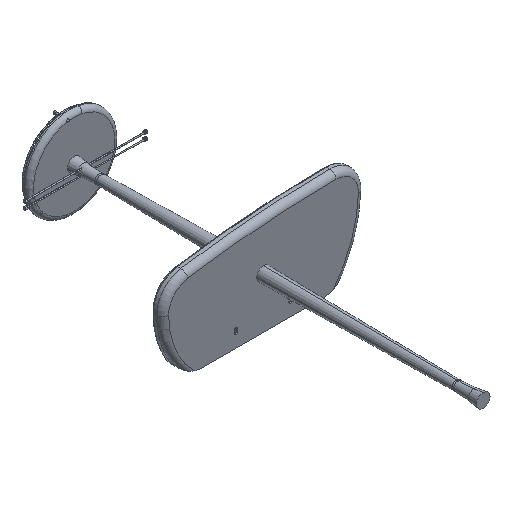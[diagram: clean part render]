
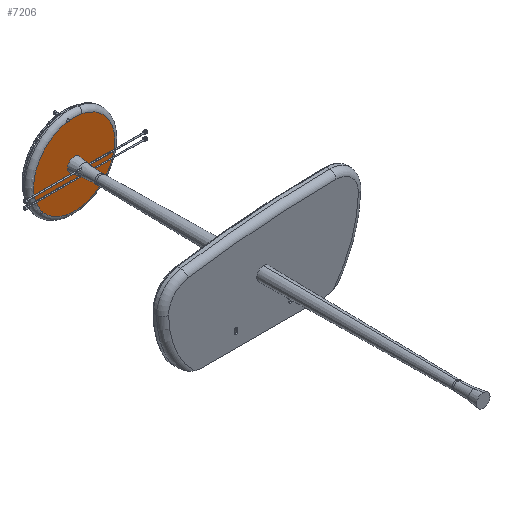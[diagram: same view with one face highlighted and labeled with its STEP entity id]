
A CAD part, isometric view. The second image highlights one B-rep face of the part: STEP entity #7206.
In plain terms, the highlighted planar face has unit normal (0, -1, 0).
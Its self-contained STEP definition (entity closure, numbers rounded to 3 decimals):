
#7 = CARTESIAN_POINT ( 'NONE',  ( -40.951, 0., 128.639 ) ) ;
#183 = ORIENTED_EDGE ( 'NONE', *, *, #2820, .T. ) ;
#193 = CARTESIAN_POINT ( 'NONE',  ( -90.26, 0., -99.727 ) ) ;
#235 = DIRECTION ( 'NONE',  ( 0., -1., 0. ) ) ;
#236 = CIRCLE ( 'NONE', #2703, 3.5 ) ;
#272 = VERTEX_POINT ( 'NONE', #193 ) ;
#528 = EDGE_CURVE ( 'NONE', #272, #6758, #1897, .T. ) ;
#607 = CARTESIAN_POINT ( 'NONE',  ( 0., 0., 0. ) ) ;
#660 = VERTEX_POINT ( 'NONE', #1255 ) ;
#672 = FACE_OUTER_BOUND ( 'NONE', #6665, .T. ) ;
#737 = DIRECTION ( 'NONE',  ( 0., 1., 0. ) ) ;
#796 = CIRCLE ( 'NONE', #8505, 135. ) ;
#842 = CIRCLE ( 'NONE', #2476, 5. ) ;
#844 = DIRECTION ( 'NONE',  ( 0., 0., 1. ) ) ;
#902 = AXIS2_PLACEMENT_3D ( 'NONE', #1121, #1190, #7937 ) ;
#1033 = CARTESIAN_POINT ( 'NONE',  ( 0., 0., 0. ) ) ;
#1058 = DIRECTION ( 'NONE',  ( 0., 1., 0. ) ) ;
#1110 = EDGE_CURVE ( 'NONE', #7724, #7570, #7263, .T. ) ;
#1121 = CARTESIAN_POINT ( 'NONE',  ( -90.26, 0., -103.727 ) ) ;
#1144 = AXIS2_PLACEMENT_3D ( 'NONE', #2956, #235, #8596 ) ;
#1174 = EDGE_CURVE ( 'NONE', #7811, #1288, #796, .T. ) ;
#1190 = DIRECTION ( 'NONE',  ( 0., -1., 0. ) ) ;
#1255 = CARTESIAN_POINT ( 'NONE',  ( 132.95, 0., -23.439 ) ) ;
#1277 = VERTEX_POINT ( 'NONE', #6953 ) ;
#1288 = VERTEX_POINT ( 'NONE', #7742 ) ;
#1411 = CARTESIAN_POINT ( 'NONE',  ( -90.93, 0., -99.784 ) ) ;
#1468 = VERTEX_POINT ( 'NONE', #5908 ) ;
#1542 = EDGE_CURVE ( 'NONE', #3006, #7724, #6504, .T. ) ;
#1732 = CARTESIAN_POINT ( 'NONE',  ( 0., 0., 0. ) ) ;
#1861 = AXIS2_PLACEMENT_3D ( 'NONE', #2587, #2705, #6724 ) ;
#1863 = ORIENTED_EDGE ( 'NONE', *, *, #528, .F. ) ;
#1897 = CIRCLE ( 'NONE', #1861, 4. ) ;
#2060 = DIRECTION ( 'NONE',  ( 0., 0., -1. ) ) ;
#2122 = ORIENTED_EDGE ( 'NONE', *, *, #3135, .T. ) ;
#2130 = EDGE_CURVE ( 'NONE', #7811, #272, #8230, .T. ) ;
#2381 = CIRCLE ( 'NONE', #3153, 135. ) ;
#2401 = CARTESIAN_POINT ( 'NONE',  ( 132.021, 0., -28.204 ) ) ;
#2407 = AXIS2_PLACEMENT_3D ( 'NONE', #7098, #737, #2974 ) ;
#2476 = AXIS2_PLACEMENT_3D ( 'NONE', #1033, #3192, #5246 ) ;
#2542 = EDGE_LOOP ( 'NONE', ( #2122, #8279 ) ) ;
#2587 = CARTESIAN_POINT ( 'NONE',  ( -90.26, 0., -103.727 ) ) ;
#2703 = AXIS2_PLACEMENT_3D ( 'NONE', #7490, #6220, #4882 ) ;
#2705 = DIRECTION ( 'NONE',  ( 0., -1., 0. ) ) ;
#2756 = DIRECTION ( 'NONE',  ( 0., -1., 0. ) ) ;
#2820 = EDGE_CURVE ( 'NONE', #5454, #7570, #8440, .T. ) ;
#2906 = CARTESIAN_POINT ( 'NONE',  ( 0., 0., 0. ) ) ;
#2956 = CARTESIAN_POINT ( 'NONE',  ( 0., 0., 0. ) ) ;
#2974 = DIRECTION ( 'NONE',  ( 0., 0., 1. ) ) ;
#3006 = VERTEX_POINT ( 'NONE', #8157 ) ;
#3135 = EDGE_CURVE ( 'NONE', #1277, #1468, #3350, .T. ) ;
#3150 = DIRECTION ( 'NONE',  ( 0., 0., 1. ) ) ;
#3153 = AXIS2_PLACEMENT_3D ( 'NONE', #7521, #6070, #3415 ) ;
#3192 = DIRECTION ( 'NONE',  ( 0., 1., 0. ) ) ;
#3350 = CIRCLE ( 'NONE', #2407, 5. ) ;
#3373 = CARTESIAN_POINT ( 'NONE',  ( -44.701, 0., 130.031 ) ) ;
#3415 = DIRECTION ( 'NONE',  ( 0., 0., 1. ) ) ;
#3566 = EDGE_CURVE ( 'NONE', #660, #5454, #2381, .T. ) ;
#3576 = CARTESIAN_POINT ( 'NONE',  ( 0., 0., 135. ) ) ;
#3614 = ORIENTED_EDGE ( 'NONE', *, *, #5862, .T. ) ;
#3701 = AXIS2_PLACEMENT_3D ( 'NONE', #7544, #2756, #2060 ) ;
#3871 = ORIENTED_EDGE ( 'NONE', *, *, #1542, .F. ) ;
#4175 = DIRECTION ( 'NONE',  ( 0., -1., 0. ) ) ;
#4483 = EDGE_CURVE ( 'NONE', #1468, #1277, #842, .T. ) ;
#4882 = DIRECTION ( 'NONE',  ( 0., 0., -1. ) ) ;
#4995 = DIRECTION ( 'NONE',  ( 0., -1., 0. ) ) ;
#5083 = AXIS2_PLACEMENT_3D ( 'NONE', #3373, #6687, #8107 ) ;
#5246 = DIRECTION ( 'NONE',  ( 0., 0., 1. ) ) ;
#5322 = CIRCLE ( 'NONE', #6721, 135. ) ;
#5454 = VERTEX_POINT ( 'NONE', #3576 ) ;
#5472 = CARTESIAN_POINT ( 'NONE',  ( 0., 0., 0. ) ) ;
#5862 = EDGE_CURVE ( 'NONE', #3006, #6758, #8014, .T. ) ;
#5908 = CARTESIAN_POINT ( 'NONE',  ( 0., 0., -5. ) ) ;
#6070 = DIRECTION ( 'NONE',  ( 0., -1., 0. ) ) ;
#6198 = ORIENTED_EDGE ( 'NONE', *, *, #1174, .T. ) ;
#6220 = DIRECTION ( 'NONE',  ( 0., -1., 0. ) ) ;
#6441 = AXIS2_PLACEMENT_3D ( 'NONE', #1732, #1058, #3150 ) ;
#6504 = CIRCLE ( 'NONE', #5083, 4. ) ;
#6562 = ORIENTED_EDGE ( 'NONE', *, *, #1110, .F. ) ;
#6665 = EDGE_LOOP ( 'NONE', ( #6198, #8322, #6855, #8036, #183, #6562, #3871, #3614, #1863, #6676 ) ) ;
#6676 = ORIENTED_EDGE ( 'NONE', *, *, #2130, .F. ) ;
#6687 = DIRECTION ( 'NONE',  ( 0., -1., 0. ) ) ;
#6721 = AXIS2_PLACEMENT_3D ( 'NONE', #5472, #4175, #8884 ) ;
#6724 = DIRECTION ( 'NONE',  ( 0., 0., -1. ) ) ;
#6758 = VERTEX_POINT ( 'NONE', #1411 ) ;
#6855 = ORIENTED_EDGE ( 'NONE', *, *, #7553, .F. ) ;
#6953 = CARTESIAN_POINT ( 'NONE',  ( 0., 0., 5. ) ) ;
#6986 = VERTEX_POINT ( 'NONE', #2401 ) ;
#7023 = CARTESIAN_POINT ( 'NONE',  ( -44.701, 0., 126.031 ) ) ;
#7098 = CARTESIAN_POINT ( 'NONE',  ( 0., 0., 0. ) ) ;
#7144 = AXIS2_PLACEMENT_3D ( 'NONE', #2906, #4995, #844 ) ;
#7206 = ADVANCED_FACE ( 'NONE', ( #8456, #672 ), #8642, .F. ) ;
#7263 = CIRCLE ( 'NONE', #3701, 4. ) ;
#7483 = DIRECTION ( 'NONE',  ( 0., -1., 0. ) ) ;
#7490 = CARTESIAN_POINT ( 'NONE',  ( 134.961, 0., -26.304 ) ) ;
#7521 = CARTESIAN_POINT ( 'NONE',  ( 0., 0., 0. ) ) ;
#7529 = EDGE_CURVE ( 'NONE', #1288, #6986, #5322, .T. ) ;
#7544 = CARTESIAN_POINT ( 'NONE',  ( -44.701, 0., 130.031 ) ) ;
#7553 = EDGE_CURVE ( 'NONE', #660, #6986, #236, .T. ) ;
#7570 = VERTEX_POINT ( 'NONE', #7 ) ;
#7724 = VERTEX_POINT ( 'NONE', #7023 ) ;
#7742 = CARTESIAN_POINT ( 'NONE',  ( 0., 0., -135. ) ) ;
#7811 = VERTEX_POINT ( 'NONE', #8563 ) ;
#7937 = DIRECTION ( 'NONE',  ( 0., 0., -1. ) ) ;
#8014 = CIRCLE ( 'NONE', #1144, 135. ) ;
#8036 = ORIENTED_EDGE ( 'NONE', *, *, #3566, .T. ) ;
#8107 = DIRECTION ( 'NONE',  ( 0., 0., -1. ) ) ;
#8157 = CARTESIAN_POINT ( 'NONE',  ( -46.802, 0., 126.628 ) ) ;
#8173 = DIRECTION ( 'NONE',  ( 0., 0., 1. ) ) ;
#8230 = CIRCLE ( 'NONE', #902, 4. ) ;
#8279 = ORIENTED_EDGE ( 'NONE', *, *, #4483, .T. ) ;
#8322 = ORIENTED_EDGE ( 'NONE', *, *, #7529, .T. ) ;
#8440 = CIRCLE ( 'NONE', #7144, 135. ) ;
#8456 = FACE_BOUND ( 'NONE', #2542, .T. ) ;
#8505 = AXIS2_PLACEMENT_3D ( 'NONE', #607, #7483, #8173 ) ;
#8563 = CARTESIAN_POINT ( 'NONE',  ( -86.262, 0., -103.846 ) ) ;
#8596 = DIRECTION ( 'NONE',  ( 0., 0., 1. ) ) ;
#8642 = PLANE ( 'NONE',  #6441 ) ;
#8884 = DIRECTION ( 'NONE',  ( 0., 0., 1. ) ) ;
